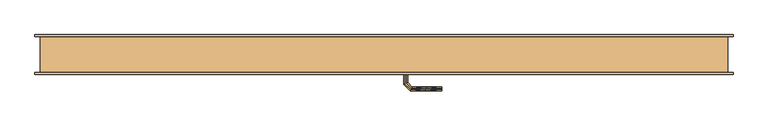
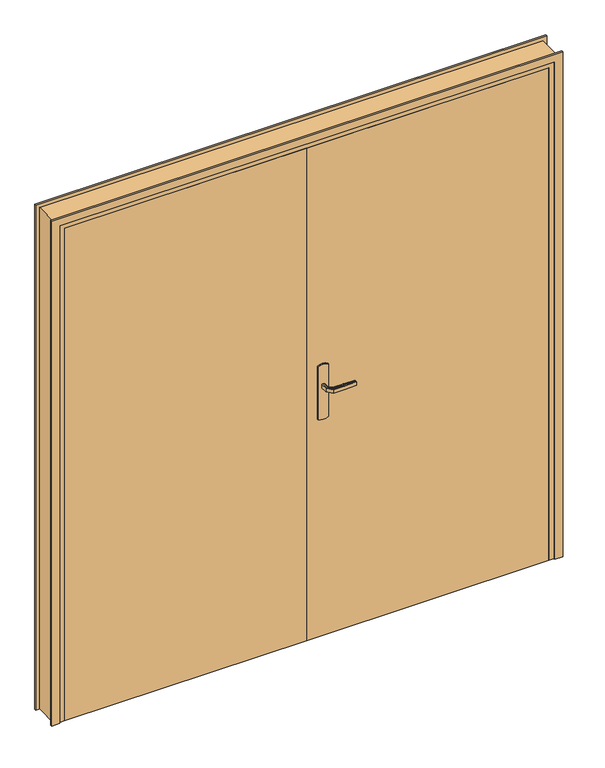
"""IFC4 building model written with IfcOpenShell, lengths in millimetres: door geometry, PP PORTAIL (1.83m x 2.04m)."""

from ifc_helpers import new_model, si_unit, frame, origin, origin_with_axes, place, context, project, spatial, polyline, outline, extrude, faceted_brep, source, transform, mapped, element, save


def door_5e1adb72(model_context):
    return source(origin(), model_context, "Body", "SolidModel", [
        extrude(outline(polyline([(866.0039831, 1020.3527618), (870.0, 1030.0), (1080.0, 1030.0), (1083.9960169, 1020.3527618), (1085.3589838, 1010.0), (1083.9960169, 999.6472382), (1080.0, 990.0), (870.0, 990.0), (866.0039831, 999.6472382), (864.6410162, 1010.0), (866.0039831, 1020.3527618)])), frame((0.0, -5.0, 0.0), z_axis=(0.0, 1.0, 0.0), x_axis=(0.0, 0.0, 1.0)), (0.0, 0.0, 1.0), 5.0),
        extrude(outline(polyline([(0.0, -15.0), (0.0, 15.0), (1985.0, 15.0), (1985.0, 1885.0), (0.0, 1885.0), (0.0, 1915.0), (2015.0, 1915.0), (2015.0, -15.0), (0.0, -15.0)])), frame((0.0, -5.0, 0.0), z_axis=(0.0, 1.0, 0.0), x_axis=(0.0, 0.0, 1.0)), (0.0, 0.0, 1.0), 5.0),
        extrude(outline(polyline([(0.0, -15.0), (0.0, 15.0), (1985.0, 15.0), (1985.0, 1885.0), (0.0, 1885.0), (0.0, 1915.0), (2015.0, 1915.0), (2015.0, -15.0), (0.0, -15.0)])), frame((0.0, 100.0, 0.0), z_axis=(0.0, 1.0, 0.0), x_axis=(0.0, 0.0, 1.0)), (0.0, 0.0, 1.0), 5.0),
        faceted_brep([(0.0, 0.0, 0.0), (0.0, 100.0, 0.0), (50.0, 100.0, 0.0), (50.0, 40.0, 0.0), (35.0, 40.0, 0.0), (35.0, 0.0, 0.0), (0.0, 0.0, 2000.0), (0.0, 100.0, 2000.0), (1900.0, 100.0, 2000.0), (1900.0, 100.0, 0.0), (1850.0, 100.0, 0.0), (1850.0, 100.0, 1950.0), (50.0, 100.0, 1950.0), (50.0, 40.0, 1950.0), (1850.0, 40.0, 1950.0), (1850.0, 40.0, 0.0), (1865.0, 40.0, 0.0), (1865.0, 40.0, 1965.0), (35.0, 40.0, 1965.0), (35.0, 0.0, 1965.0), (1865.0, 0.0, 1965.0), (1865.0, 0.0, 0.0), (1900.0, 0.0, 0.0), (1900.0, 0.0, 2000.0)], [[[0, 1, 2, 3, 4, 5]], [[1, 0, 6, 7]], [[2, 1, 7, 8, 9, 10, 11, 12]], [[3, 2, 12, 13]], [[4, 3, 13, 14, 15, 16, 17, 18]], [[5, 4, 18, 19]], [[0, 5, 19, 20, 21, 22, 23, 6]], [[8, 23, 22, 9]], [[22, 21, 16, 15, 10, 9]], [[14, 11, 10, 15]], [[20, 17, 16, 21]], [[7, 6, 23, 8]], [[13, 12, 11, 14]], [[19, 18, 17, 20]]]),
        faceted_brep([(1007.9747013, 45.0, 1007.7804408), (1004.0, 45.0, 1007.0), (1004.0, 45.0, 993.0), (1007.9747013, 45.0, 992.2195592), (1012.0252987, 45.0, 992.2195592), (1016.0, 45.0, 993.0), (1016.0, 45.0, 1007.0), (1012.0252987, 45.0, 1007.7804408), (1016.0, 67.4852045, 993.0), (1016.0, 67.4852045, 1007.0), (1012.0252987, 69.1315797, 1007.7804408), (1025.8389062, 82.9451872, 1007.7804408), (1024.1610938, 86.9957845, 1007.7804408), (1007.9747013, 70.8093921, 1007.7804408), (1004.0, 72.4557673, 1007.0), (1004.0, 72.4557673, 993.0), (1007.9747013, 70.8093921, 992.2195592), (1024.1610938, 86.9957845, 992.2195592), (1025.8389062, 82.9451872, 992.2195592), (1012.0252987, 69.1315797, 992.2195592), (1027.4852814, 78.9704859, 993.0), (1027.4852814, 78.9704859, 1007.0), (1022.5147186, 90.9704859, 1007.0), (1022.5147186, 90.9704859, 993.0), (1110.0457837, 78.9704859, 993.0), (1110.0457837, 82.9451872, 992.2195592), (1110.0457837, 86.9957845, 992.2195592), (1110.0457837, 90.9704859, 993.0), (1110.0457837, 90.9704859, 1007.0), (1110.0457837, 86.9957845, 1007.7804408), (1110.0457837, 82.9451872, 1007.7804408), (1110.0457837, 78.9704859, 1007.0), (1068.7655206, 78.9704859, 993.0), (1068.7655325, 78.9704859, 1007.0), (1067.9423449, 84.9704859, 1007.8786868), (1062.4452058, 90.9704859, 1007.0), (1062.4452043, 90.9704859, 993.0), (1067.9423451, 84.9704858, 992.1213132)], [[[0, 1, 2, 3, 4, 5, 6, 7]], [[6, 5, 8, 9]], [[9, 10, 7, 6]], [[10, 11, 12, 13, 0, 7]], [[13, 14, 1, 0]], [[2, 1, 14, 15]], [[15, 16, 3, 2]], [[16, 17, 18, 19, 4, 3]], [[19, 8, 5, 4]], [[9, 8, 20, 21]], [[21, 11, 10, 9]], [[12, 22, 14, 13]], [[15, 14, 22, 23]], [[23, 17, 16, 15]], [[18, 20, 8, 19]], [[24, 25, 26, 27, 28, 29, 30, 31]], [[21, 20, 32, 24, 31, 33]], [[33, 30, 34]], [[35, 34, 29]], [[21, 33, 11]], [[33, 31, 30]], [[28, 35, 29]], [[22, 12, 35]], [[35, 12, 34]], [[12, 11, 34]], [[11, 33, 34]], [[29, 34, 30]], [[22, 35, 28, 27, 36, 23]], [[36, 26, 37]], [[27, 26, 36]], [[17, 23, 36]], [[37, 32, 18]], [[20, 18, 32]], [[32, 25, 24]], [[26, 25, 37]], [[25, 32, 37]], [[17, 36, 37]], [[17, 37, 18]]]),
        faceted_brep([(1007.9747013, -5.0, 1007.7804408), (1012.0252987, -5.0, 1007.7804408), (1016.0, -5.0, 1007.0), (1016.0, -5.0, 993.0), (1012.0252987, -5.0, 992.2195592), (1007.9747013, -5.0, 992.2195592), (1004.0, -5.0, 993.0), (1004.0, -5.0, 1007.0), (1004.0, -32.6509507, 1007.0), (1007.9747013, -31.0045755, 1007.7804408), (1024.0235852, -47.0534593, 1007.7804408), (1025.7013975, -43.002862, 1007.7804408), (1012.0252987, -29.3267632, 1007.7804408), (1016.0, -27.680388, 1007.0), (1016.0, -27.680388, 993.0), (1012.0252987, -29.3267632, 992.2195592), (1025.7013975, -43.002862, 992.2195592), (1024.0235852, -47.0534593, 992.2195592), (1007.9747013, -31.0045755, 992.2195592), (1004.0, -32.6509507, 993.0), (1022.37721, -51.0281607, 1007.0), (1027.3477727, -39.0281607, 1007.0), (1027.3477727, -39.0281607, 993.0), (1022.37721, -51.0281607, 993.0), (1110.0186406, -51.0281607, 993.0), (1110.0186406, -47.0534593, 992.2195592), (1110.0186406, -43.002862, 992.2195592), (1110.0186406, -39.0281607, 993.0), (1110.0186406, -39.0281607, 1007.0), (1110.0186406, -43.002862, 1007.7804408), (1110.0186406, -47.0534593, 1007.7804408), (1110.0186406, -51.0281607, 1007.0), (1062.3076972, -51.0281607, 1007.0), (1067.8600191, -45.0281607, 1007.8786868), (1068.6832067, -39.0281607, 1007.0), (1068.6832067, -39.0281607, 993.0), (1067.8600189, -45.0281608, 992.1213132), (1062.3077002, -51.0281607, 993.0)], [[[0, 1, 2, 3, 4, 5, 6, 7]], [[8, 9, 0, 7]], [[9, 10, 11, 12, 1, 0]], [[12, 13, 2, 1]], [[3, 2, 13, 14]], [[14, 15, 4, 3]], [[15, 16, 17, 18, 5, 4]], [[18, 19, 6, 5]], [[7, 6, 19, 8]], [[20, 10, 9, 8]], [[11, 21, 13, 12]], [[14, 13, 21, 22]], [[22, 16, 15, 14]], [[17, 23, 19, 18]], [[8, 19, 23, 20]], [[24, 25, 26, 27, 28, 29, 30, 31]], [[32, 30, 33]], [[31, 30, 32]], [[10, 20, 32]], [[33, 34, 11]], [[21, 11, 34]], [[34, 29, 28]], [[30, 29, 33]], [[29, 34, 33]], [[10, 32, 33]], [[10, 33, 11]], [[22, 21, 34, 28, 27, 35]], [[35, 26, 36]], [[37, 36, 25]], [[22, 35, 16]], [[35, 27, 26]], [[24, 37, 25]], [[23, 17, 37]], [[37, 17, 36]], [[17, 16, 36]], [[16, 35, 36]], [[25, 36, 26]], [[20, 23, 37, 24, 31, 32]]]),
        extrude(outline(polyline([(950.0, 40.0), (950.0, 0.0), (35.0, 0.0), (35.0, 40.0), (950.0, 40.0)])), origin_with_axes(), (0.0, 0.0, 1.0), 1965.0),
        extrude(outline(polyline([(950.0, 40.0), (1865.0, 40.0), (1865.0, 0.0), (950.0, 0.0), (950.0, 40.0)])), origin_with_axes(), (0.0, 0.0, 1.0), 1965.0),
        extrude(outline(polyline([(866.0039831, 1020.3527618), (870.0, 1030.0), (1080.0, 1030.0), (1083.9960169, 1020.3527618), (1085.3589838, 1010.0), (1083.9960169, 999.6472382), (1080.0, 990.0), (870.0, 990.0), (866.0039831, 999.6472382), (864.6410162, 1010.0), (866.0039831, 1020.3527618)])), frame((0.0, 40.0, 0.0), z_axis=(0.0, 1.0, 0.0), x_axis=(0.0, 0.0, 1.0)), (0.0, 0.0, 1.0), 5.0),
    ])


if __name__ == "__main__":
    model = new_model("IFC4")
    model_context = context("Model", 3, world=origin())
    ifc_project = project(units=[si_unit("LENGTHUNIT", "METRE", prefix="MILLI")], contexts=[model_context])
    site = spatial("IfcSite", under=ifc_project)
    building = spatial("IfcBuilding", under=site)
    placement = place(None, origin())
    door_shape = door_5e1adb72(model_context)
    element("IfcDoor", 1, ObjectType="PP PORTAIL (1.83m x 2.04m)", at=placement, inside=building, context=model_context, shape_type="MappedRepresentation", body=[
        mapped(door_shape, transform((0.0, 0.0, 0.0), x_axis=(1.0, 0.0, 0.0), y_axis=(0.0, 1.0, 0.0), z_axis=(0.0, 0.0, 1.0))),
    ])
    save(model, "model.ifc")
